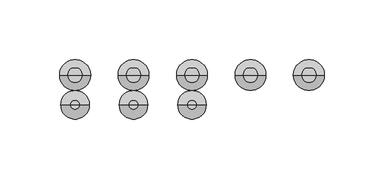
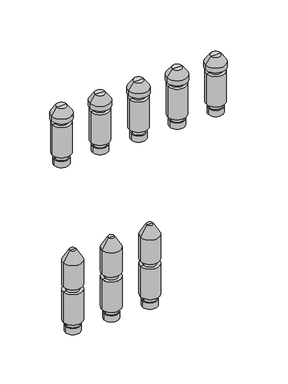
"""IFC4 building model written with IfcOpenShell, lengths in millimetres: valve geometry, PL AT_Manifold_FT-EV : 10 circuits."""

from ifc_helpers import new_model, si_unit, frame, origin, place, context, project, spatial, polyline, circle_curve, source, transform, mapped, element, save
from ifc_brep_helpers import plane_surface, cylinder_surface, revolved_surface, advanced_brep


def valve_7e3f3941(model_context):
    return source(origin(), model_context, "Body", "AdvancedBrep", [
        advanced_brep(
        [(179.8333333, 0.0, -35.11267), (198.8333333, 0.0, -35.11267), (189.3333333, 0.0, -35.11267), (179.8333333, 0.0, -27.0369646), (198.8333333, 0.0, -27.0369646), (181.3333333, 0.0, -27.0369646), (197.3333333, 0.0, -27.0369646), (181.3333333, 0.0, -20.330253), (197.3333333, 0.0, -20.330253), (177.3333333, 0.0, -20.330253), (201.3333333, 0.0, -20.330253), (177.3333333, 0.0, 20.330253), (201.3333333, 0.0, 20.330253), (181.3333333, 0.0, 20.330253), (197.3333333, 0.0, 20.330253), (181.3333333, 0.0, 27.0474786), (197.3333333, 0.0, 27.0474786), (177.3333333, 0.0, 27.0474786), (201.3333333, 0.0, 27.0474786), (177.3333333, 0.0, 59.4084325), (201.3333333, 0.0, 59.4084325), (185.3333333, 0.0, 73.264839), (193.3333333, 0.0, 73.264839), (189.3333333, 0.0, 73.264839)],
        [
            (0, 1, circle_curve(frame((189.3333333, 0.0, -35.11267), z_axis=(0.0, 0.0, -1.0), x_axis=(1.0, 0.0, 0.0)), 9.5)),
            (1, 2),
            (2, 0),
            (1, 0, circle_curve(frame((189.3333333, 0.0, -35.11267), z_axis=(0.0, 0.0, -1.0), x_axis=(1.0, 0.0, 0.0)), 9.5)),
            (3, 4, circle_curve(frame((189.3333333, 0.0, -27.0369646), z_axis=(0.0, 0.0, -1.0), x_axis=(1.0, 0.0, 0.0)), 9.5)),
            (4, 1),
            (0, 3),
            (4, 3, circle_curve(frame((189.3333333, 0.0, -27.0369646), z_axis=(0.0, 0.0, -1.0), x_axis=(1.0, 0.0, 0.0)), 9.5)),
            (5, 6, circle_curve(frame((189.3333333, 0.0, -27.0369646), z_axis=(0.0, 0.0, -1.0), x_axis=(1.0, 0.0, 0.0)), 8.0)),
            (6, 4),
            (3, 5),
            (6, 5, circle_curve(frame((189.3333333, 0.0, -27.0369646), z_axis=(0.0, 0.0, -1.0), x_axis=(1.0, 0.0, 0.0)), 8.0)),
            (7, 8, circle_curve(frame((189.3333333, 0.0, -20.330253), z_axis=(0.0, 0.0, -1.0), x_axis=(1.0, 0.0, 0.0)), 8.0)),
            (8, 6),
            (5, 7),
            (8, 7, circle_curve(frame((189.3333333, 0.0, -20.330253), z_axis=(0.0, 0.0, -1.0), x_axis=(1.0, 0.0, 0.0)), 8.0)),
            (9, 10, circle_curve(frame((189.3333333, 0.0, -20.330253), z_axis=(0.0, 0.0, -1.0), x_axis=(1.0, 0.0, 0.0)), 12.0)),
            (10, 8),
            (7, 9),
            (10, 9, circle_curve(frame((189.3333333, 0.0, -20.330253), z_axis=(0.0, 0.0, -1.0), x_axis=(1.0, 0.0, 0.0)), 12.0)),
            (11, 12, circle_curve(frame((189.3333333, 0.0, 20.330253), z_axis=(0.0, 0.0, -1.0), x_axis=(1.0, 0.0, 0.0)), 12.0)),
            (12, 10),
            (9, 11),
            (12, 11, circle_curve(frame((189.3333333, 0.0, 20.330253), z_axis=(0.0, 0.0, -1.0), x_axis=(1.0, 0.0, 0.0)), 12.0)),
            (13, 14, circle_curve(frame((189.3333333, 0.0, 20.330253), z_axis=(0.0, 0.0, -1.0), x_axis=(1.0, 0.0, 0.0)), 8.0)),
            (14, 12),
            (11, 13),
            (14, 13, circle_curve(frame((189.3333333, 0.0, 20.330253), z_axis=(0.0, 0.0, -1.0), x_axis=(1.0, 0.0, 0.0)), 8.0)),
            (15, 16, circle_curve(frame((189.3333333, 0.0, 27.0474786), z_axis=(0.0, 0.0, -1.0), x_axis=(1.0, 0.0, 0.0)), 8.0)),
            (16, 14),
            (13, 15),
            (16, 15, circle_curve(frame((189.3333333, 0.0, 27.0474786), z_axis=(0.0, 0.0, -1.0), x_axis=(1.0, 0.0, 0.0)), 8.0)),
            (17, 18, circle_curve(frame((189.3333333, 0.0, 27.0474786), z_axis=(0.0, 0.0, -1.0), x_axis=(1.0, 0.0, 0.0)), 12.0)),
            (18, 16),
            (15, 17),
            (18, 17, circle_curve(frame((189.3333333, 0.0, 27.0474786), z_axis=(0.0, 0.0, -1.0), x_axis=(1.0, 0.0, 0.0)), 12.0)),
            (19, 20, circle_curve(frame((189.3333333, 0.0, 59.4084325), z_axis=(0.0, 0.0, -1.0), x_axis=(1.0, 0.0, 0.0)), 12.0)),
            (20, 18),
            (17, 19),
            (20, 19, circle_curve(frame((189.3333333, 0.0, 59.4084325), z_axis=(0.0, 0.0, -1.0), x_axis=(1.0, 0.0, 0.0)), 12.0)),
            (21, 22, circle_curve(frame((189.3333333, 0.0, 73.264839), z_axis=(0.0, 0.0, -1.0), x_axis=(1.0, 0.0, 0.0)), 4.0)),
            (22, 20),
            (19, 21),
            (22, 21, circle_curve(frame((189.3333333, 0.0, 73.264839), z_axis=(0.0, 0.0, -1.0), x_axis=(1.0, 0.0, 0.0)), 4.0)),
            (23, 22),
            (21, 23),
        ],
        [
            plane_surface(frame((189.3333333, 0.0, -35.11267), z_axis=(0.0, 0.0, -1.0), x_axis=(1.0, 0.0, 0.0))),
            cylinder_surface(frame((189.3333333, 0.0, 58.264839), z_axis=(0.0, 0.0, 1.0), x_axis=(1.0, 0.0, 0.0)), 9.5),
            plane_surface(frame((189.3333333, 0.0, -27.0369646), z_axis=(0.0, 0.0, 1.0), x_axis=(1.0, 0.0, 0.0))),
            cylinder_surface(frame((189.3333333, 0.0, 58.264839), z_axis=(0.0, 0.0, 1.0), x_axis=(1.0, 0.0, 0.0)), 8.0),
            plane_surface(frame((189.3333333, 0.0, -20.330253), z_axis=(0.0, 0.0, -1.0), x_axis=(1.0, 0.0, 0.0))),
            cylinder_surface(frame((189.3333333, 0.0, 58.264839), z_axis=(0.0, 0.0, 1.0), x_axis=(1.0, 0.0, 0.0)), 12.0),
            plane_surface(frame((189.3333333, 0.0, 20.330253), z_axis=(0.0, 0.0, 1.0), x_axis=(1.0, 0.0, 0.0))),
            plane_surface(frame((189.3333333, 0.0, 27.0474786), z_axis=(0.0, 0.0, -1.0), x_axis=(1.0, 0.0, 0.0))),
            revolved_surface(polyline([(201.3333333, 0.0, 59.4084325), (193.3333333, 0.0, 73.264839)]), (189.3333333, 0.0, 58.264839), (0.0, 0.0, 1.0)),
            plane_surface(frame((189.3333333, 0.0, 73.264839), z_axis=(0.0, 0.0, 1.0), x_axis=(1.0, 0.0, 0.0))),
        ],
        [
            (0, [[1, 2, 3]]),
            (0, [[4, -3, -2]]),
            (1, [[5, 6, -1, 7]]),
            (1, [[8, -7, -4, -6]]),
            (2, [[9, 10, -5, 11]]),
            (2, [[12, -11, -8, -10]]),
            (3, [[13, 14, -9, 15]]),
            (3, [[16, -15, -12, -14]]),
            (4, [[17, 18, -13, 19]]),
            (4, [[20, -19, -16, -18]]),
            (5, [[21, 22, -17, 23]]),
            (5, [[24, -23, -20, -22]]),
            (6, [[25, 26, -21, 27]]),
            (6, [[28, -27, -24, -26]]),
            (3, [[29, 30, -25, 31]]),
            (3, [[32, -31, -28, -30]]),
            (7, [[33, 34, -29, 35]]),
            (7, [[36, -35, -32, -34]]),
            (5, [[37, 38, -33, 39]]),
            (5, [[40, -39, -36, -38]]),
            (8, [[41, 42, -37, 43]]),
            (8, [[44, -43, -40, -42]]),
            (9, [[45, -41, 46]]),
            (9, [[-46, -44, -45]]),
        ],
    ),
        advanced_brep(
        [(130.7222222, 0.0, -35.11267), (149.7222222, 0.0, -35.11267), (140.2222222, 0.0, -35.11267), (130.7222222, 0.0, -27.0369646), (149.7222222, 0.0, -27.0369646), (132.2222222, 0.0, -27.0369646), (148.2222222, 0.0, -27.0369646), (132.2222222, 0.0, -20.330253), (148.2222222, 0.0, -20.330253), (128.2222222, 0.0, -20.330253), (152.2222222, 0.0, -20.330253), (128.2222222, 0.0, 20.330253), (152.2222222, 0.0, 20.330253), (132.2222222, 0.0, 20.330253), (148.2222222, 0.0, 20.330253), (132.2222222, 0.0, 27.0474786), (148.2222222, 0.0, 27.0474786), (128.2222222, 0.0, 27.0474786), (152.2222222, 0.0, 27.0474786), (128.2222222, 0.0, 59.4084325), (152.2222222, 0.0, 59.4084325), (136.2222222, 0.0, 73.264839), (144.2222222, 0.0, 73.264839), (140.2222222, 0.0, 73.264839)],
        [
            (0, 1, circle_curve(frame((140.2222222, 0.0, -35.11267), z_axis=(0.0, 0.0, -1.0), x_axis=(1.0, 0.0, 0.0)), 9.5)),
            (1, 2),
            (2, 0),
            (1, 0, circle_curve(frame((140.2222222, 0.0, -35.11267), z_axis=(0.0, 0.0, -1.0), x_axis=(1.0, 0.0, 0.0)), 9.5)),
            (3, 4, circle_curve(frame((140.2222222, 0.0, -27.0369646), z_axis=(0.0, 0.0, -1.0), x_axis=(1.0, 0.0, 0.0)), 9.5)),
            (4, 1),
            (0, 3),
            (4, 3, circle_curve(frame((140.2222222, 0.0, -27.0369646), z_axis=(0.0, 0.0, -1.0), x_axis=(1.0, 0.0, 0.0)), 9.5)),
            (5, 6, circle_curve(frame((140.2222222, 0.0, -27.0369646), z_axis=(0.0, 0.0, -1.0), x_axis=(1.0, 0.0, 0.0)), 8.0)),
            (6, 4),
            (3, 5),
            (6, 5, circle_curve(frame((140.2222222, 0.0, -27.0369646), z_axis=(0.0, 0.0, -1.0), x_axis=(1.0, 0.0, 0.0)), 8.0)),
            (7, 8, circle_curve(frame((140.2222222, 0.0, -20.330253), z_axis=(0.0, 0.0, -1.0), x_axis=(1.0, 0.0, 0.0)), 8.0)),
            (8, 6),
            (5, 7),
            (8, 7, circle_curve(frame((140.2222222, 0.0, -20.330253), z_axis=(0.0, 0.0, -1.0), x_axis=(1.0, 0.0, 0.0)), 8.0)),
            (9, 10, circle_curve(frame((140.2222222, 0.0, -20.330253), z_axis=(0.0, 0.0, -1.0), x_axis=(1.0, 0.0, 0.0)), 12.0)),
            (10, 8),
            (7, 9),
            (10, 9, circle_curve(frame((140.2222222, 0.0, -20.330253), z_axis=(0.0, 0.0, -1.0), x_axis=(1.0, 0.0, 0.0)), 12.0)),
            (11, 12, circle_curve(frame((140.2222222, 0.0, 20.330253), z_axis=(0.0, 0.0, -1.0), x_axis=(1.0, 0.0, 0.0)), 12.0)),
            (12, 10),
            (9, 11),
            (12, 11, circle_curve(frame((140.2222222, 0.0, 20.330253), z_axis=(0.0, 0.0, -1.0), x_axis=(1.0, 0.0, 0.0)), 12.0)),
            (13, 14, circle_curve(frame((140.2222222, 0.0, 20.330253), z_axis=(0.0, 0.0, -1.0), x_axis=(1.0, 0.0, 0.0)), 8.0)),
            (14, 12),
            (11, 13),
            (14, 13, circle_curve(frame((140.2222222, 0.0, 20.330253), z_axis=(0.0, 0.0, -1.0), x_axis=(1.0, 0.0, 0.0)), 8.0)),
            (15, 16, circle_curve(frame((140.2222222, 0.0, 27.0474786), z_axis=(0.0, 0.0, -1.0), x_axis=(1.0, 0.0, 0.0)), 8.0)),
            (16, 14),
            (13, 15),
            (16, 15, circle_curve(frame((140.2222222, 0.0, 27.0474786), z_axis=(0.0, 0.0, -1.0), x_axis=(1.0, 0.0, 0.0)), 8.0)),
            (17, 18, circle_curve(frame((140.2222222, 0.0, 27.0474786), z_axis=(0.0, 0.0, -1.0), x_axis=(1.0, 0.0, 0.0)), 12.0)),
            (18, 16),
            (15, 17),
            (18, 17, circle_curve(frame((140.2222222, 0.0, 27.0474786), z_axis=(0.0, 0.0, -1.0), x_axis=(1.0, 0.0, 0.0)), 12.0)),
            (19, 20, circle_curve(frame((140.2222222, 0.0, 59.4084325), z_axis=(0.0, 0.0, -1.0), x_axis=(1.0, 0.0, 0.0)), 12.0)),
            (20, 18),
            (17, 19),
            (20, 19, circle_curve(frame((140.2222222, 0.0, 59.4084325), z_axis=(0.0, 0.0, -1.0), x_axis=(1.0, 0.0, 0.0)), 12.0)),
            (21, 22, circle_curve(frame((140.2222222, 0.0, 73.264839), z_axis=(0.0, 0.0, -1.0), x_axis=(1.0, 0.0, 0.0)), 4.0)),
            (22, 20),
            (19, 21),
            (22, 21, circle_curve(frame((140.2222222, 0.0, 73.264839), z_axis=(0.0, 0.0, -1.0), x_axis=(1.0, 0.0, 0.0)), 4.0)),
            (23, 22),
            (21, 23),
        ],
        [
            plane_surface(frame((140.2222222, 0.0, -35.11267), z_axis=(0.0, 0.0, -1.0), x_axis=(1.0, 0.0, 0.0))),
            cylinder_surface(frame((140.2222222, 0.0, 58.264839), z_axis=(0.0, 0.0, 1.0), x_axis=(1.0, 0.0, 0.0)), 9.5),
            plane_surface(frame((140.2222222, 0.0, -27.0369646), z_axis=(0.0, 0.0, 1.0), x_axis=(1.0, 0.0, 0.0))),
            cylinder_surface(frame((140.2222222, 0.0, 58.264839), z_axis=(0.0, 0.0, 1.0), x_axis=(1.0, 0.0, 0.0)), 8.0),
            plane_surface(frame((140.2222222, 0.0, -20.330253), z_axis=(0.0, 0.0, -1.0), x_axis=(1.0, 0.0, 0.0))),
            cylinder_surface(frame((140.2222222, 0.0, 58.264839), z_axis=(0.0, 0.0, 1.0), x_axis=(1.0, 0.0, 0.0)), 12.0),
            plane_surface(frame((140.2222222, 0.0, 20.330253), z_axis=(0.0, 0.0, 1.0), x_axis=(1.0, 0.0, 0.0))),
            plane_surface(frame((140.2222222, 0.0, 27.0474786), z_axis=(0.0, 0.0, -1.0), x_axis=(1.0, 0.0, 0.0))),
            revolved_surface(polyline([(152.2222222, 0.0, 59.4084325), (144.2222222, 0.0, 73.264839)]), (140.2222222, 0.0, 58.264839), (0.0, 0.0, 1.0)),
            plane_surface(frame((140.2222222, 0.0, 73.264839), z_axis=(0.0, 0.0, 1.0), x_axis=(1.0, 0.0, 0.0))),
        ],
        [
            (0, [[1, 2, 3]]),
            (0, [[4, -3, -2]]),
            (1, [[5, 6, -1, 7]]),
            (1, [[8, -7, -4, -6]]),
            (2, [[9, 10, -5, 11]]),
            (2, [[12, -11, -8, -10]]),
            (3, [[13, 14, -9, 15]]),
            (3, [[16, -15, -12, -14]]),
            (4, [[17, 18, -13, 19]]),
            (4, [[20, -19, -16, -18]]),
            (5, [[21, 22, -17, 23]]),
            (5, [[24, -23, -20, -22]]),
            (6, [[25, 26, -21, 27]]),
            (6, [[28, -27, -24, -26]]),
            (3, [[29, 30, -25, 31]]),
            (3, [[32, -31, -28, -30]]),
            (7, [[33, 34, -29, 35]]),
            (7, [[36, -35, -32, -34]]),
            (5, [[37, 38, -33, 39]]),
            (5, [[40, -39, -36, -38]]),
            (8, [[41, 42, -37, 43]]),
            (8, [[44, -43, -40, -42]]),
            (9, [[45, -41, 46]]),
            (9, [[-46, -44, -45]]),
        ],
    ),
        advanced_brep(
        [(278.0555556, 25.0, 174.88733), (297.0555556, 25.0, 174.88733), (287.5555556, 25.0, 174.88733), (278.0555556, 25.0, 182.9630354), (297.0555556, 25.0, 182.9630354), (279.5555556, 25.0, 182.9630354), (295.5555556, 25.0, 182.9630354), (279.5555556, 25.0, 189.669747), (295.5555556, 25.0, 189.669747), (275.5555556, 25.0, 189.669747), (299.5555556, 25.0, 189.669747), (275.5555556, 25.0, 230.330253), (299.5555556, 25.0, 230.330253), (279.5555556, 25.0, 230.330253), (295.5555556, 25.0, 230.330253), (279.5555556, 25.0, 236.0474786), (295.5555556, 25.0, 236.0474786), (274.5555556, 25.0, 236.0474786), (300.5555556, 25.0, 236.0474786), (274.5555556, 25.0, 242.337955), (300.5555556, 25.0, 242.337955), (281.2107334, 25.0, 251.842534), (293.9003777, 25.0, 251.842534), (287.5555556, 25.0, 251.842534)],
        [
            (0, 1, circle_curve(frame((287.5555556, 25.0, 174.88733), z_axis=(0.0, 0.0, -1.0), x_axis=(1.0, 0.0, 0.0)), 9.5)),
            (1, 2),
            (2, 0),
            (1, 0, circle_curve(frame((287.5555556, 25.0, 174.88733), z_axis=(0.0, 0.0, -1.0), x_axis=(1.0, 0.0, 0.0)), 9.5)),
            (3, 4, circle_curve(frame((287.5555556, 25.0, 182.9630354), z_axis=(0.0, 0.0, -1.0), x_axis=(1.0, 0.0, 0.0)), 9.5)),
            (4, 1),
            (0, 3),
            (4, 3, circle_curve(frame((287.5555556, 25.0, 182.9630354), z_axis=(0.0, 0.0, -1.0), x_axis=(1.0, 0.0, 0.0)), 9.5)),
            (5, 6, circle_curve(frame((287.5555556, 25.0, 182.9630354), z_axis=(0.0, 0.0, -1.0), x_axis=(1.0, 0.0, 0.0)), 8.0)),
            (6, 4),
            (3, 5),
            (6, 5, circle_curve(frame((287.5555556, 25.0, 182.9630354), z_axis=(0.0, 0.0, -1.0), x_axis=(1.0, 0.0, 0.0)), 8.0)),
            (7, 8, circle_curve(frame((287.5555556, 25.0, 189.669747), z_axis=(0.0, 0.0, -1.0), x_axis=(1.0, 0.0, 0.0)), 8.0)),
            (8, 6),
            (5, 7),
            (8, 7, circle_curve(frame((287.5555556, 25.0, 189.669747), z_axis=(0.0, 0.0, -1.0), x_axis=(1.0, 0.0, 0.0)), 8.0)),
            (9, 10, circle_curve(frame((287.5555556, 25.0, 189.669747), z_axis=(0.0, 0.0, -1.0), x_axis=(1.0, 0.0, 0.0)), 12.0)),
            (10, 8),
            (7, 9),
            (10, 9, circle_curve(frame((287.5555556, 25.0, 189.669747), z_axis=(0.0, 0.0, -1.0), x_axis=(1.0, 0.0, 0.0)), 12.0)),
            (11, 12, circle_curve(frame((287.5555556, 25.0, 230.330253), z_axis=(0.0, 0.0, -1.0), x_axis=(1.0, 0.0, 0.0)), 12.0)),
            (12, 10),
            (9, 11),
            (12, 11, circle_curve(frame((287.5555556, 25.0, 230.330253), z_axis=(0.0, 0.0, -1.0), x_axis=(1.0, 0.0, 0.0)), 12.0)),
            (13, 14, circle_curve(frame((287.5555556, 25.0, 230.330253), z_axis=(0.0, 0.0, -1.0), x_axis=(1.0, 0.0, 0.0)), 8.0)),
            (14, 12),
            (11, 13),
            (14, 13, circle_curve(frame((287.5555556, 25.0, 230.330253), z_axis=(0.0, 0.0, -1.0), x_axis=(1.0, 0.0, 0.0)), 8.0)),
            (15, 16, circle_curve(frame((287.5555556, 25.0, 236.0474786), z_axis=(0.0, 0.0, -1.0), x_axis=(1.0, 0.0, 0.0)), 8.0)),
            (16, 14),
            (13, 15),
            (16, 15, circle_curve(frame((287.5555556, 25.0, 236.0474786), z_axis=(0.0, 0.0, -1.0), x_axis=(1.0, 0.0, 0.0)), 8.0)),
            (17, 18, circle_curve(frame((287.5555556, 25.0, 236.0474786), z_axis=(0.0, 0.0, -1.0), x_axis=(1.0, 0.0, 0.0)), 13.0)),
            (18, 16),
            (15, 17),
            (18, 17, circle_curve(frame((287.5555556, 25.0, 236.0474786), z_axis=(0.0, 0.0, -1.0), x_axis=(1.0, 0.0, 0.0)), 13.0)),
            (19, 20, circle_curve(frame((287.5555556, 25.0, 242.337955), z_axis=(0.0, 0.0, -1.0), x_axis=(1.0, 0.0, 0.0)), 13.0)),
            (20, 18),
            (17, 19),
            (20, 19, circle_curve(frame((287.5555556, 25.0, 242.337955), z_axis=(0.0, 0.0, -1.0), x_axis=(1.0, 0.0, 0.0)), 13.0)),
            (21, 22, circle_curve(frame((287.5555556, 25.0, 251.842534), z_axis=(0.0, 0.0, -1.0), x_axis=(1.0, 0.0, 0.0)), 6.3448221)),
            (22, 20),
            (19, 21),
            (22, 21, circle_curve(frame((287.5555556, 25.0, 251.842534), z_axis=(0.0, 0.0, -1.0), x_axis=(1.0, 0.0, 0.0)), 6.3448221)),
            (23, 22),
            (21, 23),
        ],
        [
            plane_surface(frame((287.5555556, 25.0, 174.88733), z_axis=(0.0, 0.0, -1.0), x_axis=(1.0, 0.0, 0.0))),
            cylinder_surface(frame((287.5555556, 25.0, 247.7026565), z_axis=(0.0, 0.0, 1.0), x_axis=(1.0, 0.0, 0.0)), 9.5),
            plane_surface(frame((287.5555556, 25.0, 182.9630354), z_axis=(0.0, 0.0, 1.0), x_axis=(1.0, 0.0, 0.0))),
            cylinder_surface(frame((287.5555556, 25.0, 247.7026565), z_axis=(0.0, 0.0, 1.0), x_axis=(1.0, 0.0, 0.0)), 8.0),
            plane_surface(frame((287.5555556, 25.0, 189.669747), z_axis=(0.0, 0.0, -1.0), x_axis=(1.0, 0.0, 0.0))),
            cylinder_surface(frame((287.5555556, 25.0, 247.7026565), z_axis=(0.0, 0.0, 1.0), x_axis=(1.0, 0.0, 0.0)), 12.0),
            plane_surface(frame((287.5555556, 25.0, 230.330253), z_axis=(0.0, 0.0, 1.0), x_axis=(1.0, 0.0, 0.0))),
            plane_surface(frame((287.5555556, 25.0, 236.0474786), z_axis=(0.0, 0.0, -1.0), x_axis=(1.0, 0.0, 0.0))),
            cylinder_surface(frame((287.5555556, 25.0, 247.7026565), z_axis=(0.0, 0.0, 1.0), x_axis=(1.0, 0.0, 0.0)), 13.0),
            revolved_surface(polyline([(300.5555556, 25.0, 242.337955), (293.9003777, 25.0, 251.842534)]), (287.5555556, 25.0, 247.7026565), (0.0, 0.0, 1.0)),
            plane_surface(frame((287.5555556, 25.0, 251.842534), z_axis=(0.0, 0.0, 1.0), x_axis=(1.0, 0.0, 0.0))),
        ],
        [
            (0, [[1, 2, 3]]),
            (0, [[4, -3, -2]]),
            (1, [[5, 6, -1, 7]]),
            (1, [[8, -7, -4, -6]]),
            (2, [[9, 10, -5, 11]]),
            (2, [[12, -11, -8, -10]]),
            (3, [[13, 14, -9, 15]]),
            (3, [[16, -15, -12, -14]]),
            (4, [[17, 18, -13, 19]]),
            (4, [[20, -19, -16, -18]]),
            (5, [[21, 22, -17, 23]]),
            (5, [[24, -23, -20, -22]]),
            (6, [[25, 26, -21, 27]]),
            (6, [[28, -27, -24, -26]]),
            (3, [[29, 30, -25, 31]]),
            (3, [[32, -31, -28, -30]]),
            (7, [[33, 34, -29, 35]]),
            (7, [[36, -35, -32, -34]]),
            (8, [[37, 38, -33, 39]]),
            (8, [[40, -39, -36, -38]]),
            (9, [[41, 42, -37, 43]]),
            (9, [[44, -43, -40, -42]]),
            (10, [[45, -41, 46]]),
            (10, [[-46, -44, -45]]),
        ],
    ),
        advanced_brep(
        [(228.9444444, 25.0, 174.88733), (247.9444444, 25.0, 174.88733), (238.4444444, 25.0, 174.88733), (228.9444444, 25.0, 182.9630354), (247.9444444, 25.0, 182.9630354), (230.4444444, 25.0, 182.9630354), (246.4444444, 25.0, 182.9630354), (230.4444444, 25.0, 189.669747), (246.4444444, 25.0, 189.669747), (226.4444444, 25.0, 189.669747), (250.4444444, 25.0, 189.669747), (226.4444444, 25.0, 230.330253), (250.4444444, 25.0, 230.330253), (230.4444444, 25.0, 230.330253), (246.4444444, 25.0, 230.330253), (230.4444444, 25.0, 236.0474786), (246.4444444, 25.0, 236.0474786), (225.4444444, 25.0, 236.0474786), (251.4444444, 25.0, 236.0474786), (225.4444444, 25.0, 242.337955), (251.4444444, 25.0, 242.337955), (232.0996223, 25.0, 251.842534), (244.7892666, 25.0, 251.842534), (238.4444444, 25.0, 251.842534)],
        [
            (0, 1, circle_curve(frame((238.4444444, 25.0, 174.88733), z_axis=(0.0, 0.0, -1.0), x_axis=(1.0, 0.0, 0.0)), 9.5)),
            (1, 2),
            (2, 0),
            (1, 0, circle_curve(frame((238.4444444, 25.0, 174.88733), z_axis=(0.0, 0.0, -1.0), x_axis=(1.0, 0.0, 0.0)), 9.5)),
            (3, 4, circle_curve(frame((238.4444444, 25.0, 182.9630354), z_axis=(0.0, 0.0, -1.0), x_axis=(1.0, 0.0, 0.0)), 9.5)),
            (4, 1),
            (0, 3),
            (4, 3, circle_curve(frame((238.4444444, 25.0, 182.9630354), z_axis=(0.0, 0.0, -1.0), x_axis=(1.0, 0.0, 0.0)), 9.5)),
            (5, 6, circle_curve(frame((238.4444444, 25.0, 182.9630354), z_axis=(0.0, 0.0, -1.0), x_axis=(1.0, 0.0, 0.0)), 8.0)),
            (6, 4),
            (3, 5),
            (6, 5, circle_curve(frame((238.4444444, 25.0, 182.9630354), z_axis=(0.0, 0.0, -1.0), x_axis=(1.0, 0.0, 0.0)), 8.0)),
            (7, 8, circle_curve(frame((238.4444444, 25.0, 189.669747), z_axis=(0.0, 0.0, -1.0), x_axis=(1.0, 0.0, 0.0)), 8.0)),
            (8, 6),
            (5, 7),
            (8, 7, circle_curve(frame((238.4444444, 25.0, 189.669747), z_axis=(0.0, 0.0, -1.0), x_axis=(1.0, 0.0, 0.0)), 8.0)),
            (9, 10, circle_curve(frame((238.4444444, 25.0, 189.669747), z_axis=(0.0, 0.0, -1.0), x_axis=(1.0, 0.0, 0.0)), 12.0)),
            (10, 8),
            (7, 9),
            (10, 9, circle_curve(frame((238.4444444, 25.0, 189.669747), z_axis=(0.0, 0.0, -1.0), x_axis=(1.0, 0.0, 0.0)), 12.0)),
            (11, 12, circle_curve(frame((238.4444444, 25.0, 230.330253), z_axis=(0.0, 0.0, -1.0), x_axis=(1.0, 0.0, 0.0)), 12.0)),
            (12, 10),
            (9, 11),
            (12, 11, circle_curve(frame((238.4444444, 25.0, 230.330253), z_axis=(0.0, 0.0, -1.0), x_axis=(1.0, 0.0, 0.0)), 12.0)),
            (13, 14, circle_curve(frame((238.4444444, 25.0, 230.330253), z_axis=(0.0, 0.0, -1.0), x_axis=(1.0, 0.0, 0.0)), 8.0)),
            (14, 12),
            (11, 13),
            (14, 13, circle_curve(frame((238.4444444, 25.0, 230.330253), z_axis=(0.0, 0.0, -1.0), x_axis=(1.0, 0.0, 0.0)), 8.0)),
            (15, 16, circle_curve(frame((238.4444444, 25.0, 236.0474786), z_axis=(0.0, 0.0, -1.0), x_axis=(1.0, 0.0, 0.0)), 8.0)),
            (16, 14),
            (13, 15),
            (16, 15, circle_curve(frame((238.4444444, 25.0, 236.0474786), z_axis=(0.0, 0.0, -1.0), x_axis=(1.0, 0.0, 0.0)), 8.0)),
            (17, 18, circle_curve(frame((238.4444444, 25.0, 236.0474786), z_axis=(0.0, 0.0, -1.0), x_axis=(1.0, 0.0, 0.0)), 13.0)),
            (18, 16),
            (15, 17),
            (18, 17, circle_curve(frame((238.4444444, 25.0, 236.0474786), z_axis=(0.0, 0.0, -1.0), x_axis=(1.0, 0.0, 0.0)), 13.0)),
            (19, 20, circle_curve(frame((238.4444444, 25.0, 242.337955), z_axis=(0.0, 0.0, -1.0), x_axis=(1.0, 0.0, 0.0)), 13.0)),
            (20, 18),
            (17, 19),
            (20, 19, circle_curve(frame((238.4444444, 25.0, 242.337955), z_axis=(0.0, 0.0, -1.0), x_axis=(1.0, 0.0, 0.0)), 13.0)),
            (21, 22, circle_curve(frame((238.4444444, 25.0, 251.842534), z_axis=(0.0, 0.0, -1.0), x_axis=(1.0, 0.0, 0.0)), 6.3448221)),
            (22, 20),
            (19, 21),
            (22, 21, circle_curve(frame((238.4444444, 25.0, 251.842534), z_axis=(0.0, 0.0, -1.0), x_axis=(1.0, 0.0, 0.0)), 6.3448221)),
            (23, 22),
            (21, 23),
        ],
        [
            plane_surface(frame((238.4444444, 25.0, 174.88733), z_axis=(0.0, 0.0, -1.0), x_axis=(1.0, 0.0, 0.0))),
            cylinder_surface(frame((238.4444444, 25.0, 247.7026565), z_axis=(0.0, 0.0, 1.0), x_axis=(1.0, 0.0, 0.0)), 9.5),
            plane_surface(frame((238.4444444, 25.0, 182.9630354), z_axis=(0.0, 0.0, 1.0), x_axis=(1.0, 0.0, 0.0))),
            cylinder_surface(frame((238.4444444, 25.0, 247.7026565), z_axis=(0.0, 0.0, 1.0), x_axis=(1.0, 0.0, 0.0)), 8.0),
            plane_surface(frame((238.4444444, 25.0, 189.669747), z_axis=(0.0, 0.0, -1.0), x_axis=(1.0, 0.0, 0.0))),
            cylinder_surface(frame((238.4444444, 25.0, 247.7026565), z_axis=(0.0, 0.0, 1.0), x_axis=(1.0, 0.0, 0.0)), 12.0),
            plane_surface(frame((238.4444444, 25.0, 230.330253), z_axis=(0.0, 0.0, 1.0), x_axis=(1.0, 0.0, 0.0))),
            plane_surface(frame((238.4444444, 25.0, 236.0474786), z_axis=(0.0, 0.0, -1.0), x_axis=(1.0, 0.0, 0.0))),
            cylinder_surface(frame((238.4444444, 25.0, 247.7026565), z_axis=(0.0, 0.0, 1.0), x_axis=(1.0, 0.0, 0.0)), 13.0),
            revolved_surface(polyline([(251.4444444, 25.0, 242.337955), (244.7892666, 25.0, 251.842534)]), (238.4444444, 25.0, 247.7026565), (0.0, 0.0, 1.0)),
            plane_surface(frame((238.4444444, 25.0, 251.842534), z_axis=(0.0, 0.0, 1.0), x_axis=(1.0, 0.0, 0.0))),
        ],
        [
            (0, [[1, 2, 3]]),
            (0, [[4, -3, -2]]),
            (1, [[5, 6, -1, 7]]),
            (1, [[8, -7, -4, -6]]),
            (2, [[9, 10, -5, 11]]),
            (2, [[12, -11, -8, -10]]),
            (3, [[13, 14, -9, 15]]),
            (3, [[16, -15, -12, -14]]),
            (4, [[17, 18, -13, 19]]),
            (4, [[20, -19, -16, -18]]),
            (5, [[21, 22, -17, 23]]),
            (5, [[24, -23, -20, -22]]),
            (6, [[25, 26, -21, 27]]),
            (6, [[28, -27, -24, -26]]),
            (3, [[29, 30, -25, 31]]),
            (3, [[32, -31, -28, -30]]),
            (7, [[33, 34, -29, 35]]),
            (7, [[36, -35, -32, -34]]),
            (8, [[37, 38, -33, 39]]),
            (8, [[40, -39, -36, -38]]),
            (9, [[41, 42, -37, 43]]),
            (9, [[44, -43, -40, -42]]),
            (10, [[45, -41, 46]]),
            (10, [[-46, -44, -45]]),
        ],
    ),
        advanced_brep(
        [(179.8333333, 25.0, 174.88733), (198.8333333, 25.0, 174.88733), (189.3333333, 25.0, 174.88733), (179.8333333, 25.0, 182.9630354), (198.8333333, 25.0, 182.9630354), (181.3333333, 25.0, 182.9630354), (197.3333333, 25.0, 182.9630354), (181.3333333, 25.0, 189.669747), (197.3333333, 25.0, 189.669747), (177.3333333, 25.0, 189.669747), (201.3333333, 25.0, 189.669747), (177.3333333, 25.0, 230.330253), (201.3333333, 25.0, 230.330253), (181.3333333, 25.0, 230.330253), (197.3333333, 25.0, 230.330253), (181.3333333, 25.0, 236.0474786), (197.3333333, 25.0, 236.0474786), (176.3333333, 25.0, 236.0474786), (202.3333333, 25.0, 236.0474786), (176.3333333, 25.0, 242.337955), (202.3333333, 25.0, 242.337955), (182.9885112, 25.0, 251.842534), (195.6781555, 25.0, 251.842534), (189.3333333, 25.0, 251.842534)],
        [
            (0, 1, circle_curve(frame((189.3333333, 25.0, 174.88733), z_axis=(0.0, 0.0, -1.0), x_axis=(1.0, 0.0, 0.0)), 9.5)),
            (1, 2),
            (2, 0),
            (1, 0, circle_curve(frame((189.3333333, 25.0, 174.88733), z_axis=(0.0, 0.0, -1.0), x_axis=(1.0, 0.0, 0.0)), 9.5)),
            (3, 4, circle_curve(frame((189.3333333, 25.0, 182.9630354), z_axis=(0.0, 0.0, -1.0), x_axis=(1.0, 0.0, 0.0)), 9.5)),
            (4, 1),
            (0, 3),
            (4, 3, circle_curve(frame((189.3333333, 25.0, 182.9630354), z_axis=(0.0, 0.0, -1.0), x_axis=(1.0, 0.0, 0.0)), 9.5)),
            (5, 6, circle_curve(frame((189.3333333, 25.0, 182.9630354), z_axis=(0.0, 0.0, -1.0), x_axis=(1.0, 0.0, 0.0)), 8.0)),
            (6, 4),
            (3, 5),
            (6, 5, circle_curve(frame((189.3333333, 25.0, 182.9630354), z_axis=(0.0, 0.0, -1.0), x_axis=(1.0, 0.0, 0.0)), 8.0)),
            (7, 8, circle_curve(frame((189.3333333, 25.0, 189.669747), z_axis=(0.0, 0.0, -1.0), x_axis=(1.0, 0.0, 0.0)), 8.0)),
            (8, 6),
            (5, 7),
            (8, 7, circle_curve(frame((189.3333333, 25.0, 189.669747), z_axis=(0.0, 0.0, -1.0), x_axis=(1.0, 0.0, 0.0)), 8.0)),
            (9, 10, circle_curve(frame((189.3333333, 25.0, 189.669747), z_axis=(0.0, 0.0, -1.0), x_axis=(1.0, 0.0, 0.0)), 12.0)),
            (10, 8),
            (7, 9),
            (10, 9, circle_curve(frame((189.3333333, 25.0, 189.669747), z_axis=(0.0, 0.0, -1.0), x_axis=(1.0, 0.0, 0.0)), 12.0)),
            (11, 12, circle_curve(frame((189.3333333, 25.0, 230.330253), z_axis=(0.0, 0.0, -1.0), x_axis=(1.0, 0.0, 0.0)), 12.0)),
            (12, 10),
            (9, 11),
            (12, 11, circle_curve(frame((189.3333333, 25.0, 230.330253), z_axis=(0.0, 0.0, -1.0), x_axis=(1.0, 0.0, 0.0)), 12.0)),
            (13, 14, circle_curve(frame((189.3333333, 25.0, 230.330253), z_axis=(0.0, 0.0, -1.0), x_axis=(1.0, 0.0, 0.0)), 8.0)),
            (14, 12),
            (11, 13),
            (14, 13, circle_curve(frame((189.3333333, 25.0, 230.330253), z_axis=(0.0, 0.0, -1.0), x_axis=(1.0, 0.0, 0.0)), 8.0)),
            (15, 16, circle_curve(frame((189.3333333, 25.0, 236.0474786), z_axis=(0.0, 0.0, -1.0), x_axis=(1.0, 0.0, 0.0)), 8.0)),
            (16, 14),
            (13, 15),
            (16, 15, circle_curve(frame((189.3333333, 25.0, 236.0474786), z_axis=(0.0, 0.0, -1.0), x_axis=(1.0, 0.0, 0.0)), 8.0)),
            (17, 18, circle_curve(frame((189.3333333, 25.0, 236.0474786), z_axis=(0.0, 0.0, -1.0), x_axis=(1.0, 0.0, 0.0)), 13.0)),
            (18, 16),
            (15, 17),
            (18, 17, circle_curve(frame((189.3333333, 25.0, 236.0474786), z_axis=(0.0, 0.0, -1.0), x_axis=(1.0, 0.0, 0.0)), 13.0)),
            (19, 20, circle_curve(frame((189.3333333, 25.0, 242.337955), z_axis=(0.0, 0.0, -1.0), x_axis=(1.0, 0.0, 0.0)), 13.0)),
            (20, 18),
            (17, 19),
            (20, 19, circle_curve(frame((189.3333333, 25.0, 242.337955), z_axis=(0.0, 0.0, -1.0), x_axis=(1.0, 0.0, 0.0)), 13.0)),
            (21, 22, circle_curve(frame((189.3333333, 25.0, 251.842534), z_axis=(0.0, 0.0, -1.0), x_axis=(1.0, 0.0, 0.0)), 6.3448221)),
            (22, 20),
            (19, 21),
            (22, 21, circle_curve(frame((189.3333333, 25.0, 251.842534), z_axis=(0.0, 0.0, -1.0), x_axis=(1.0, 0.0, 0.0)), 6.3448221)),
            (23, 22),
            (21, 23),
        ],
        [
            plane_surface(frame((189.3333333, 25.0, 174.88733), z_axis=(0.0, 0.0, -1.0), x_axis=(1.0, 0.0, 0.0))),
            cylinder_surface(frame((189.3333333, 25.0, 247.7026565), z_axis=(0.0, 0.0, 1.0), x_axis=(1.0, 0.0, 0.0)), 9.5),
            plane_surface(frame((189.3333333, 25.0, 182.9630354), z_axis=(0.0, 0.0, 1.0), x_axis=(1.0, 0.0, 0.0))),
            cylinder_surface(frame((189.3333333, 25.0, 247.7026565), z_axis=(0.0, 0.0, 1.0), x_axis=(1.0, 0.0, 0.0)), 8.0),
            plane_surface(frame((189.3333333, 25.0, 189.669747), z_axis=(0.0, 0.0, -1.0), x_axis=(1.0, 0.0, 0.0))),
            cylinder_surface(frame((189.3333333, 25.0, 247.7026565), z_axis=(0.0, 0.0, 1.0), x_axis=(1.0, 0.0, 0.0)), 12.0),
            plane_surface(frame((189.3333333, 25.0, 230.330253), z_axis=(0.0, 0.0, 1.0), x_axis=(1.0, 0.0, 0.0))),
            plane_surface(frame((189.3333333, 25.0, 236.0474786), z_axis=(0.0, 0.0, -1.0), x_axis=(1.0, 0.0, 0.0))),
            cylinder_surface(frame((189.3333333, 25.0, 247.7026565), z_axis=(0.0, 0.0, 1.0), x_axis=(1.0, 0.0, 0.0)), 13.0),
            revolved_surface(polyline([(202.3333333, 25.0, 242.337955), (195.6781555, 25.0, 251.842534)]), (189.3333333, 25.0, 247.7026565), (0.0, 0.0, 1.0)),
            plane_surface(frame((189.3333333, 25.0, 251.842534), z_axis=(0.0, 0.0, 1.0), x_axis=(1.0, 0.0, 0.0))),
        ],
        [
            (0, [[1, 2, 3]]),
            (0, [[4, -3, -2]]),
            (1, [[5, 6, -1, 7]]),
            (1, [[8, -7, -4, -6]]),
            (2, [[9, 10, -5, 11]]),
            (2, [[12, -11, -8, -10]]),
            (3, [[13, 14, -9, 15]]),
            (3, [[16, -15, -12, -14]]),
            (4, [[17, 18, -13, 19]]),
            (4, [[20, -19, -16, -18]]),
            (5, [[21, 22, -17, 23]]),
            (5, [[24, -23, -20, -22]]),
            (6, [[25, 26, -21, 27]]),
            (6, [[28, -27, -24, -26]]),
            (3, [[29, 30, -25, 31]]),
            (3, [[32, -31, -28, -30]]),
            (7, [[33, 34, -29, 35]]),
            (7, [[36, -35, -32, -34]]),
            (8, [[37, 38, -33, 39]]),
            (8, [[40, -39, -36, -38]]),
            (9, [[41, 42, -37, 43]]),
            (9, [[44, -43, -40, -42]]),
            (10, [[45, -41, 46]]),
            (10, [[-46, -44, -45]]),
        ],
    ),
        advanced_brep(
        [(130.7222222, 25.0, 174.88733), (149.7222222, 25.0, 174.88733), (140.2222222, 25.0, 174.88733), (130.7222222, 25.0, 182.9630354), (149.7222222, 25.0, 182.9630354), (132.2222222, 25.0, 182.9630354), (148.2222222, 25.0, 182.9630354), (132.2222222, 25.0, 189.669747), (148.2222222, 25.0, 189.669747), (128.2222222, 25.0, 189.669747), (152.2222222, 25.0, 189.669747), (128.2222222, 25.0, 230.330253), (152.2222222, 25.0, 230.330253), (132.2222222, 25.0, 230.330253), (148.2222222, 25.0, 230.330253), (132.2222222, 25.0, 236.0474786), (148.2222222, 25.0, 236.0474786), (127.2222222, 25.0, 236.0474786), (153.2222222, 25.0, 236.0474786), (127.2222222, 25.0, 242.337955), (153.2222222, 25.0, 242.337955), (133.8774001, 25.0, 251.842534), (146.5670443, 25.0, 251.842534), (140.2222222, 25.0, 251.842534)],
        [
            (0, 1, circle_curve(frame((140.2222222, 25.0, 174.88733), z_axis=(0.0, 0.0, -1.0), x_axis=(1.0, 0.0, 0.0)), 9.5)),
            (1, 2),
            (2, 0),
            (1, 0, circle_curve(frame((140.2222222, 25.0, 174.88733), z_axis=(0.0, 0.0, -1.0), x_axis=(1.0, 0.0, 0.0)), 9.5)),
            (3, 4, circle_curve(frame((140.2222222, 25.0, 182.9630354), z_axis=(0.0, 0.0, -1.0), x_axis=(1.0, 0.0, 0.0)), 9.5)),
            (4, 1),
            (0, 3),
            (4, 3, circle_curve(frame((140.2222222, 25.0, 182.9630354), z_axis=(0.0, 0.0, -1.0), x_axis=(1.0, 0.0, 0.0)), 9.5)),
            (5, 6, circle_curve(frame((140.2222222, 25.0, 182.9630354), z_axis=(0.0, 0.0, -1.0), x_axis=(1.0, 0.0, 0.0)), 8.0)),
            (6, 4),
            (3, 5),
            (6, 5, circle_curve(frame((140.2222222, 25.0, 182.9630354), z_axis=(0.0, 0.0, -1.0), x_axis=(1.0, 0.0, 0.0)), 8.0)),
            (7, 8, circle_curve(frame((140.2222222, 25.0, 189.669747), z_axis=(0.0, 0.0, -1.0), x_axis=(1.0, 0.0, 0.0)), 8.0)),
            (8, 6),
            (5, 7),
            (8, 7, circle_curve(frame((140.2222222, 25.0, 189.669747), z_axis=(0.0, 0.0, -1.0), x_axis=(1.0, 0.0, 0.0)), 8.0)),
            (9, 10, circle_curve(frame((140.2222222, 25.0, 189.669747), z_axis=(0.0, 0.0, -1.0), x_axis=(1.0, 0.0, 0.0)), 12.0)),
            (10, 8),
            (7, 9),
            (10, 9, circle_curve(frame((140.2222222, 25.0, 189.669747), z_axis=(0.0, 0.0, -1.0), x_axis=(1.0, 0.0, 0.0)), 12.0)),
            (11, 12, circle_curve(frame((140.2222222, 25.0, 230.330253), z_axis=(0.0, 0.0, -1.0), x_axis=(1.0, 0.0, 0.0)), 12.0)),
            (12, 10),
            (9, 11),
            (12, 11, circle_curve(frame((140.2222222, 25.0, 230.330253), z_axis=(0.0, 0.0, -1.0), x_axis=(1.0, 0.0, 0.0)), 12.0)),
            (13, 14, circle_curve(frame((140.2222222, 25.0, 230.330253), z_axis=(0.0, 0.0, -1.0), x_axis=(1.0, 0.0, 0.0)), 8.0)),
            (14, 12),
            (11, 13),
            (14, 13, circle_curve(frame((140.2222222, 25.0, 230.330253), z_axis=(0.0, 0.0, -1.0), x_axis=(1.0, 0.0, 0.0)), 8.0)),
            (15, 16, circle_curve(frame((140.2222222, 25.0, 236.0474786), z_axis=(0.0, 0.0, -1.0), x_axis=(1.0, 0.0, 0.0)), 8.0)),
            (16, 14),
            (13, 15),
            (16, 15, circle_curve(frame((140.2222222, 25.0, 236.0474786), z_axis=(0.0, 0.0, -1.0), x_axis=(1.0, 0.0, 0.0)), 8.0)),
            (17, 18, circle_curve(frame((140.2222222, 25.0, 236.0474786), z_axis=(0.0, 0.0, -1.0), x_axis=(1.0, 0.0, 0.0)), 13.0)),
            (18, 16),
            (15, 17),
            (18, 17, circle_curve(frame((140.2222222, 25.0, 236.0474786), z_axis=(0.0, 0.0, -1.0), x_axis=(1.0, 0.0, 0.0)), 13.0)),
            (19, 20, circle_curve(frame((140.2222222, 25.0, 242.337955), z_axis=(0.0, 0.0, -1.0), x_axis=(1.0, 0.0, 0.0)), 13.0)),
            (20, 18),
            (17, 19),
            (20, 19, circle_curve(frame((140.2222222, 25.0, 242.337955), z_axis=(0.0, 0.0, -1.0), x_axis=(1.0, 0.0, 0.0)), 13.0)),
            (21, 22, circle_curve(frame((140.2222222, 25.0, 251.842534), z_axis=(0.0, 0.0, -1.0), x_axis=(1.0, 0.0, 0.0)), 6.3448221)),
            (22, 20),
            (19, 21),
            (22, 21, circle_curve(frame((140.2222222, 25.0, 251.842534), z_axis=(0.0, 0.0, -1.0), x_axis=(1.0, 0.0, 0.0)), 6.3448221)),
            (23, 22),
            (21, 23),
        ],
        [
            plane_surface(frame((140.2222222, 25.0, 174.88733), z_axis=(0.0, 0.0, -1.0), x_axis=(1.0, 0.0, 0.0))),
            cylinder_surface(frame((140.2222222, 25.0, 247.7026565), z_axis=(0.0, 0.0, 1.0), x_axis=(1.0, 0.0, 0.0)), 9.5),
            plane_surface(frame((140.2222222, 25.0, 182.9630354), z_axis=(0.0, 0.0, 1.0), x_axis=(1.0, 0.0, 0.0))),
            cylinder_surface(frame((140.2222222, 25.0, 247.7026565), z_axis=(0.0, 0.0, 1.0), x_axis=(1.0, 0.0, 0.0)), 8.0),
            plane_surface(frame((140.2222222, 25.0, 189.669747), z_axis=(0.0, 0.0, -1.0), x_axis=(1.0, 0.0, 0.0))),
            cylinder_surface(frame((140.2222222, 25.0, 247.7026565), z_axis=(0.0, 0.0, 1.0), x_axis=(1.0, 0.0, 0.0)), 12.0),
            plane_surface(frame((140.2222222, 25.0, 230.330253), z_axis=(0.0, 0.0, 1.0), x_axis=(1.0, 0.0, 0.0))),
            plane_surface(frame((140.2222222, 25.0, 236.0474786), z_axis=(0.0, 0.0, -1.0), x_axis=(1.0, 0.0, 0.0))),
            cylinder_surface(frame((140.2222222, 25.0, 247.7026565), z_axis=(0.0, 0.0, 1.0), x_axis=(1.0, 0.0, 0.0)), 13.0),
            revolved_surface(polyline([(153.2222222, 25.0, 242.337955), (146.5670443, 25.0, 251.842534)]), (140.2222222, 25.0, 247.7026565), (0.0, 0.0, 1.0)),
            plane_surface(frame((140.2222222, 25.0, 251.842534), z_axis=(0.0, 0.0, 1.0), x_axis=(1.0, 0.0, 0.0))),
        ],
        [
            (0, [[1, 2, 3]]),
            (0, [[4, -3, -2]]),
            (1, [[5, 6, -1, 7]]),
            (1, [[8, -7, -4, -6]]),
            (2, [[9, 10, -5, 11]]),
            (2, [[12, -11, -8, -10]]),
            (3, [[13, 14, -9, 15]]),
            (3, [[16, -15, -12, -14]]),
            (4, [[17, 18, -13, 19]]),
            (4, [[20, -19, -16, -18]]),
            (5, [[21, 22, -17, 23]]),
            (5, [[24, -23, -20, -22]]),
            (6, [[25, 26, -21, 27]]),
            (6, [[28, -27, -24, -26]]),
            (3, [[29, 30, -25, 31]]),
            (3, [[32, -31, -28, -30]]),
            (7, [[33, 34, -29, 35]]),
            (7, [[36, -35, -32, -34]]),
            (8, [[37, 38, -33, 39]]),
            (8, [[40, -39, -36, -38]]),
            (9, [[41, 42, -37, 43]]),
            (9, [[44, -43, -40, -42]]),
            (10, [[45, -41, 46]]),
            (10, [[-46, -44, -45]]),
        ],
    ),
        advanced_brep(
        [(81.6111111, 0.0, -35.11267), (100.6111111, 0.0, -35.11267), (91.1111111, 0.0, -35.11267), (81.6111111, 0.0, -27.0369646), (100.6111111, 0.0, -27.0369646), (83.1111111, 0.0, -27.0369646), (99.1111111, 0.0, -27.0369646), (83.1111111, 0.0, -20.330253), (99.1111111, 0.0, -20.330253), (79.1111111, 0.0, -20.330253), (103.1111111, 0.0, -20.330253), (79.1111111, 0.0, 20.330253), (103.1111111, 0.0, 20.330253), (83.1111111, 0.0, 20.330253), (99.1111111, 0.0, 20.330253), (83.1111111, 0.0, 27.0474786), (99.1111111, 0.0, 27.0474786), (79.1111111, 0.0, 27.0474786), (103.1111111, 0.0, 27.0474786), (79.1111111, 0.0, 59.4084325), (103.1111111, 0.0, 59.4084325), (87.1111111, 0.0, 73.264839), (95.1111111, 0.0, 73.264839), (91.1111111, 0.0, 73.264839)],
        [
            (0, 1, circle_curve(frame((91.1111111, 0.0, -35.11267), z_axis=(0.0, 0.0, -1.0), x_axis=(1.0, 0.0, 0.0)), 9.5)),
            (1, 2),
            (2, 0),
            (1, 0, circle_curve(frame((91.1111111, 0.0, -35.11267), z_axis=(0.0, 0.0, -1.0), x_axis=(1.0, 0.0, 0.0)), 9.5)),
            (3, 4, circle_curve(frame((91.1111111, 0.0, -27.0369646), z_axis=(0.0, 0.0, -1.0), x_axis=(1.0, 0.0, 0.0)), 9.5)),
            (4, 1),
            (0, 3),
            (4, 3, circle_curve(frame((91.1111111, 0.0, -27.0369646), z_axis=(0.0, 0.0, -1.0), x_axis=(1.0, 0.0, 0.0)), 9.5)),
            (5, 6, circle_curve(frame((91.1111111, 0.0, -27.0369646), z_axis=(0.0, 0.0, -1.0), x_axis=(1.0, 0.0, 0.0)), 8.0)),
            (6, 4),
            (3, 5),
            (6, 5, circle_curve(frame((91.1111111, 0.0, -27.0369646), z_axis=(0.0, 0.0, -1.0), x_axis=(1.0, 0.0, 0.0)), 8.0)),
            (7, 8, circle_curve(frame((91.1111111, 0.0, -20.330253), z_axis=(0.0, 0.0, -1.0), x_axis=(1.0, 0.0, 0.0)), 8.0)),
            (8, 6),
            (5, 7),
            (8, 7, circle_curve(frame((91.1111111, 0.0, -20.330253), z_axis=(0.0, 0.0, -1.0), x_axis=(1.0, 0.0, 0.0)), 8.0)),
            (9, 10, circle_curve(frame((91.1111111, 0.0, -20.330253), z_axis=(0.0, 0.0, -1.0), x_axis=(1.0, 0.0, 0.0)), 12.0)),
            (10, 8),
            (7, 9),
            (10, 9, circle_curve(frame((91.1111111, 0.0, -20.330253), z_axis=(0.0, 0.0, -1.0), x_axis=(1.0, 0.0, 0.0)), 12.0)),
            (11, 12, circle_curve(frame((91.1111111, 0.0, 20.330253), z_axis=(0.0, 0.0, -1.0), x_axis=(1.0, 0.0, 0.0)), 12.0)),
            (12, 10),
            (9, 11),
            (12, 11, circle_curve(frame((91.1111111, 0.0, 20.330253), z_axis=(0.0, 0.0, -1.0), x_axis=(1.0, 0.0, 0.0)), 12.0)),
            (13, 14, circle_curve(frame((91.1111111, 0.0, 20.330253), z_axis=(0.0, 0.0, -1.0), x_axis=(1.0, 0.0, 0.0)), 8.0)),
            (14, 12),
            (11, 13),
            (14, 13, circle_curve(frame((91.1111111, 0.0, 20.330253), z_axis=(0.0, 0.0, -1.0), x_axis=(1.0, 0.0, 0.0)), 8.0)),
            (15, 16, circle_curve(frame((91.1111111, 0.0, 27.0474786), z_axis=(0.0, 0.0, -1.0), x_axis=(1.0, 0.0, 0.0)), 8.0)),
            (16, 14),
            (13, 15),
            (16, 15, circle_curve(frame((91.1111111, 0.0, 27.0474786), z_axis=(0.0, 0.0, -1.0), x_axis=(1.0, 0.0, 0.0)), 8.0)),
            (17, 18, circle_curve(frame((91.1111111, 0.0, 27.0474786), z_axis=(0.0, 0.0, -1.0), x_axis=(1.0, 0.0, 0.0)), 12.0)),
            (18, 16),
            (15, 17),
            (18, 17, circle_curve(frame((91.1111111, 0.0, 27.0474786), z_axis=(0.0, 0.0, -1.0), x_axis=(1.0, 0.0, 0.0)), 12.0)),
            (19, 20, circle_curve(frame((91.1111111, 0.0, 59.4084325), z_axis=(0.0, 0.0, -1.0), x_axis=(1.0, 0.0, 0.0)), 12.0)),
            (20, 18),
            (17, 19),
            (20, 19, circle_curve(frame((91.1111111, 0.0, 59.4084325), z_axis=(0.0, 0.0, -1.0), x_axis=(1.0, 0.0, 0.0)), 12.0)),
            (21, 22, circle_curve(frame((91.1111111, 0.0, 73.264839), z_axis=(0.0, 0.0, -1.0), x_axis=(1.0, 0.0, 0.0)), 4.0)),
            (22, 20),
            (19, 21),
            (22, 21, circle_curve(frame((91.1111111, 0.0, 73.264839), z_axis=(0.0, 0.0, -1.0), x_axis=(1.0, 0.0, 0.0)), 4.0)),
            (23, 22),
            (21, 23),
        ],
        [
            plane_surface(frame((91.1111111, 0.0, -35.11267), z_axis=(0.0, 0.0, -1.0), x_axis=(1.0, 0.0, 0.0))),
            cylinder_surface(frame((91.1111111, 0.0, 58.264839), z_axis=(0.0, 0.0, 1.0), x_axis=(1.0, 0.0, 0.0)), 9.5),
            plane_surface(frame((91.1111111, 0.0, -27.0369646), z_axis=(0.0, 0.0, 1.0), x_axis=(1.0, 0.0, 0.0))),
            cylinder_surface(frame((91.1111111, 0.0, 58.264839), z_axis=(0.0, 0.0, 1.0), x_axis=(1.0, 0.0, 0.0)), 8.0),
            plane_surface(frame((91.1111111, 0.0, -20.330253), z_axis=(0.0, 0.0, -1.0), x_axis=(1.0, 0.0, 0.0))),
            cylinder_surface(frame((91.1111111, 0.0, 58.264839), z_axis=(0.0, 0.0, 1.0), x_axis=(1.0, 0.0, 0.0)), 12.0),
            plane_surface(frame((91.1111111, 0.0, 20.330253), z_axis=(0.0, 0.0, 1.0), x_axis=(1.0, 0.0, 0.0))),
            plane_surface(frame((91.1111111, 0.0, 27.0474786), z_axis=(0.0, 0.0, -1.0), x_axis=(1.0, 0.0, 0.0))),
            revolved_surface(polyline([(103.1111111, 0.0, 59.4084325), (95.1111111, 0.0, 73.264839)]), (91.1111111, 0.0, 58.264839), (0.0, 0.0, 1.0)),
            plane_surface(frame((91.1111111, 0.0, 73.264839), z_axis=(0.0, 0.0, 1.0), x_axis=(1.0, 0.0, 0.0))),
        ],
        [
            (0, [[1, 2, 3]]),
            (0, [[4, -3, -2]]),
            (1, [[5, 6, -1, 7]]),
            (1, [[8, -7, -4, -6]]),
            (2, [[9, 10, -5, 11]]),
            (2, [[12, -11, -8, -10]]),
            (3, [[13, 14, -9, 15]]),
            (3, [[16, -15, -12, -14]]),
            (4, [[17, 18, -13, 19]]),
            (4, [[20, -19, -16, -18]]),
            (5, [[21, 22, -17, 23]]),
            (5, [[24, -23, -20, -22]]),
            (6, [[25, 26, -21, 27]]),
            (6, [[28, -27, -24, -26]]),
            (3, [[29, 30, -25, 31]]),
            (3, [[32, -31, -28, -30]]),
            (7, [[33, 34, -29, 35]]),
            (7, [[36, -35, -32, -34]]),
            (5, [[37, 38, -33, 39]]),
            (5, [[40, -39, -36, -38]]),
            (8, [[41, 42, -37, 43]]),
            (8, [[44, -43, -40, -42]]),
            (9, [[45, -41, 46]]),
            (9, [[-46, -44, -45]]),
        ],
    ),
        advanced_brep(
        [(81.6111111, 25.0, 174.88733), (100.6111111, 25.0, 174.88733), (91.1111111, 25.0, 174.88733), (81.6111111, 25.0, 182.9630354), (100.6111111, 25.0, 182.9630354), (83.1111111, 25.0, 182.9630354), (99.1111111, 25.0, 182.9630354), (83.1111111, 25.0, 189.669747), (99.1111111, 25.0, 189.669747), (79.1111111, 25.0, 189.669747), (103.1111111, 25.0, 189.669747), (79.1111111, 25.0, 230.330253), (103.1111111, 25.0, 230.330253), (83.1111111, 25.0, 230.330253), (99.1111111, 25.0, 230.330253), (83.1111111, 25.0, 236.0474786), (99.1111111, 25.0, 236.0474786), (78.1111111, 25.0, 236.0474786), (104.1111111, 25.0, 236.0474786), (78.1111111, 25.0, 242.337955), (104.1111111, 25.0, 242.337955), (84.766289, 25.0, 251.842534), (97.4559332, 25.0, 251.842534), (91.1111111, 25.0, 251.842534)],
        [
            (0, 1, circle_curve(frame((91.1111111, 25.0, 174.88733), z_axis=(0.0, 0.0, -1.0), x_axis=(1.0, 0.0, 0.0)), 9.5)),
            (1, 2),
            (2, 0),
            (1, 0, circle_curve(frame((91.1111111, 25.0, 174.88733), z_axis=(0.0, 0.0, -1.0), x_axis=(1.0, 0.0, 0.0)), 9.5)),
            (3, 4, circle_curve(frame((91.1111111, 25.0, 182.9630354), z_axis=(0.0, 0.0, -1.0), x_axis=(1.0, 0.0, 0.0)), 9.5)),
            (4, 1),
            (0, 3),
            (4, 3, circle_curve(frame((91.1111111, 25.0, 182.9630354), z_axis=(0.0, 0.0, -1.0), x_axis=(1.0, 0.0, 0.0)), 9.5)),
            (5, 6, circle_curve(frame((91.1111111, 25.0, 182.9630354), z_axis=(0.0, 0.0, -1.0), x_axis=(1.0, 0.0, 0.0)), 8.0)),
            (6, 4),
            (3, 5),
            (6, 5, circle_curve(frame((91.1111111, 25.0, 182.9630354), z_axis=(0.0, 0.0, -1.0), x_axis=(1.0, 0.0, 0.0)), 8.0)),
            (7, 8, circle_curve(frame((91.1111111, 25.0, 189.669747), z_axis=(0.0, 0.0, -1.0), x_axis=(1.0, 0.0, 0.0)), 8.0)),
            (8, 6),
            (5, 7),
            (8, 7, circle_curve(frame((91.1111111, 25.0, 189.669747), z_axis=(0.0, 0.0, -1.0), x_axis=(1.0, 0.0, 0.0)), 8.0)),
            (9, 10, circle_curve(frame((91.1111111, 25.0, 189.669747), z_axis=(0.0, 0.0, -1.0), x_axis=(1.0, 0.0, 0.0)), 12.0)),
            (10, 8),
            (7, 9),
            (10, 9, circle_curve(frame((91.1111111, 25.0, 189.669747), z_axis=(0.0, 0.0, -1.0), x_axis=(1.0, 0.0, 0.0)), 12.0)),
            (11, 12, circle_curve(frame((91.1111111, 25.0, 230.330253), z_axis=(0.0, 0.0, -1.0), x_axis=(1.0, 0.0, 0.0)), 12.0)),
            (12, 10),
            (9, 11),
            (12, 11, circle_curve(frame((91.1111111, 25.0, 230.330253), z_axis=(0.0, 0.0, -1.0), x_axis=(1.0, 0.0, 0.0)), 12.0)),
            (13, 14, circle_curve(frame((91.1111111, 25.0, 230.330253), z_axis=(0.0, 0.0, -1.0), x_axis=(1.0, 0.0, 0.0)), 8.0)),
            (14, 12),
            (11, 13),
            (14, 13, circle_curve(frame((91.1111111, 25.0, 230.330253), z_axis=(0.0, 0.0, -1.0), x_axis=(1.0, 0.0, 0.0)), 8.0)),
            (15, 16, circle_curve(frame((91.1111111, 25.0, 236.0474786), z_axis=(0.0, 0.0, -1.0), x_axis=(1.0, 0.0, 0.0)), 8.0)),
            (16, 14),
            (13, 15),
            (16, 15, circle_curve(frame((91.1111111, 25.0, 236.0474786), z_axis=(0.0, 0.0, -1.0), x_axis=(1.0, 0.0, 0.0)), 8.0)),
            (17, 18, circle_curve(frame((91.1111111, 25.0, 236.0474786), z_axis=(0.0, 0.0, -1.0), x_axis=(1.0, 0.0, 0.0)), 13.0)),
            (18, 16),
            (15, 17),
            (18, 17, circle_curve(frame((91.1111111, 25.0, 236.0474786), z_axis=(0.0, 0.0, -1.0), x_axis=(1.0, 0.0, 0.0)), 13.0)),
            (19, 20, circle_curve(frame((91.1111111, 25.0, 242.337955), z_axis=(0.0, 0.0, -1.0), x_axis=(1.0, 0.0, 0.0)), 13.0)),
            (20, 18),
            (17, 19),
            (20, 19, circle_curve(frame((91.1111111, 25.0, 242.337955), z_axis=(0.0, 0.0, -1.0), x_axis=(1.0, 0.0, 0.0)), 13.0)),
            (21, 22, circle_curve(frame((91.1111111, 25.0, 251.842534), z_axis=(0.0, 0.0, -1.0), x_axis=(1.0, 0.0, 0.0)), 6.3448221)),
            (22, 20),
            (19, 21),
            (22, 21, circle_curve(frame((91.1111111, 25.0, 251.842534), z_axis=(0.0, 0.0, -1.0), x_axis=(1.0, 0.0, 0.0)), 6.3448221)),
            (23, 22),
            (21, 23),
        ],
        [
            plane_surface(frame((91.1111111, 25.0, 174.88733), z_axis=(0.0, 0.0, -1.0), x_axis=(1.0, 0.0, 0.0))),
            cylinder_surface(frame((91.1111111, 25.0, 247.7026565), z_axis=(0.0, 0.0, 1.0), x_axis=(1.0, 0.0, 0.0)), 9.5),
            plane_surface(frame((91.1111111, 25.0, 182.9630354), z_axis=(0.0, 0.0, 1.0), x_axis=(1.0, 0.0, 0.0))),
            cylinder_surface(frame((91.1111111, 25.0, 247.7026565), z_axis=(0.0, 0.0, 1.0), x_axis=(1.0, 0.0, 0.0)), 8.0),
            plane_surface(frame((91.1111111, 25.0, 189.669747), z_axis=(0.0, 0.0, -1.0), x_axis=(1.0, 0.0, 0.0))),
            cylinder_surface(frame((91.1111111, 25.0, 247.7026565), z_axis=(0.0, 0.0, 1.0), x_axis=(1.0, 0.0, 0.0)), 12.0),
            plane_surface(frame((91.1111111, 25.0, 230.330253), z_axis=(0.0, 0.0, 1.0), x_axis=(1.0, 0.0, 0.0))),
            plane_surface(frame((91.1111111, 25.0, 236.0474786), z_axis=(0.0, 0.0, -1.0), x_axis=(1.0, 0.0, 0.0))),
            cylinder_surface(frame((91.1111111, 25.0, 247.7026565), z_axis=(0.0, 0.0, 1.0), x_axis=(1.0, 0.0, 0.0)), 13.0),
            revolved_surface(polyline([(104.1111111, 25.0, 242.337955), (97.4559332, 25.0, 251.842534)]), (91.1111111, 25.0, 247.7026565), (0.0, 0.0, 1.0)),
            plane_surface(frame((91.1111111, 25.0, 251.842534), z_axis=(0.0, 0.0, 1.0), x_axis=(1.0, 0.0, 0.0))),
        ],
        [
            (0, [[1, 2, 3]]),
            (0, [[4, -3, -2]]),
            (1, [[5, 6, -1, 7]]),
            (1, [[8, -7, -4, -6]]),
            (2, [[9, 10, -5, 11]]),
            (2, [[12, -11, -8, -10]]),
            (3, [[13, 14, -9, 15]]),
            (3, [[16, -15, -12, -14]]),
            (4, [[17, 18, -13, 19]]),
            (4, [[20, -19, -16, -18]]),
            (5, [[21, 22, -17, 23]]),
            (5, [[24, -23, -20, -22]]),
            (6, [[25, 26, -21, 27]]),
            (6, [[28, -27, -24, -26]]),
            (3, [[29, 30, -25, 31]]),
            (3, [[32, -31, -28, -30]]),
            (7, [[33, 34, -29, 35]]),
            (7, [[36, -35, -32, -34]]),
            (8, [[37, 38, -33, 39]]),
            (8, [[40, -39, -36, -38]]),
            (9, [[41, 42, -37, 43]]),
            (9, [[44, -43, -40, -42]]),
            (10, [[45, -41, 46]]),
            (10, [[-46, -44, -45]]),
        ],
    ),
    ])


if __name__ == "__main__":
    model = new_model("IFC4")
    model_context = context("Model", 3, world=origin())
    ifc_project = project(units=[si_unit("LENGTHUNIT", "METRE", prefix="MILLI")], contexts=[model_context])
    site = spatial("IfcSite", under=ifc_project)
    building = spatial("IfcBuilding", under=site)
    placement = place(None, origin())
    valve_shape = valve_7e3f3941(model_context)
    element("IfcValve", 1, ObjectType="PL AT_Manifold_FT-EV : 10 circuits", at=placement, inside=building, context=model_context, shape_type="MappedRepresentation", body=[
        mapped(valve_shape, transform((0.0, 0.0, 0.0), x_axis=(1.0, 0.0, 0.0), y_axis=(0.0, 1.0, 0.0), z_axis=(0.0, 0.0, 1.0))),
    ])
    save(model, "model.ifc")
